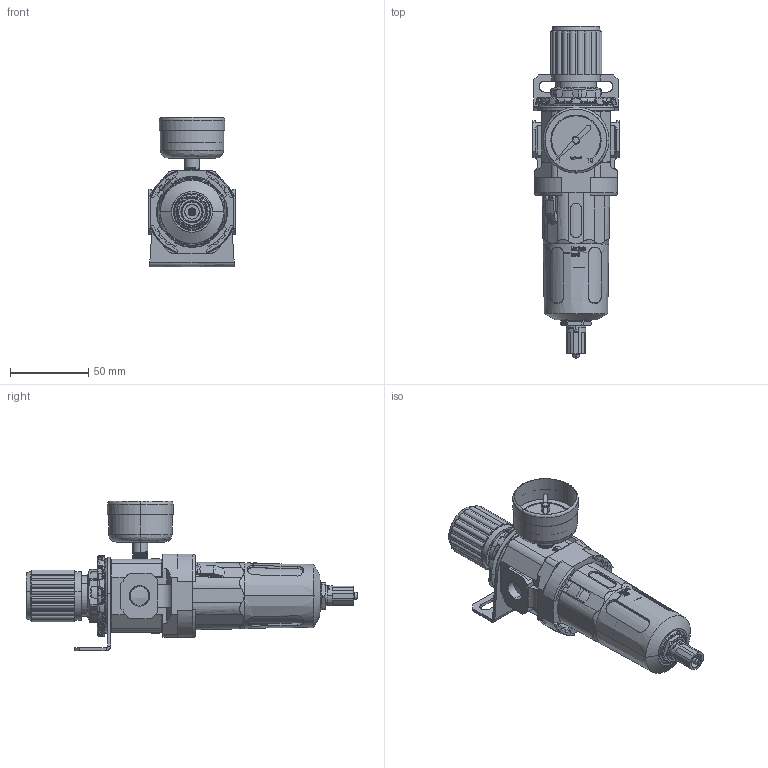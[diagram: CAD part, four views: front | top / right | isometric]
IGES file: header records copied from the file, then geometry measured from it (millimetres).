
Start section: SolidWorks IGES file using analytic representation for surfaces
Global section: file name: C:\Documents and Settings\Administrator\桌面\UAC30A.IGS,1; native system: 5HSolidWorks 2012; preprocessor: SolidWorks 2012; author: Administrator; date: 140217.143410; units: millimetre
Bounding box: 55 x 211.8 x 95.35 mm (x, y, z)
Surface area: 106669.7 mm2 (no closed solid volume)
Topology: 0 solids, 0 shells, 2069 faces, 30806 edges, 36032 vertices
Faces by surface type: bspline 1331, revolution 738
